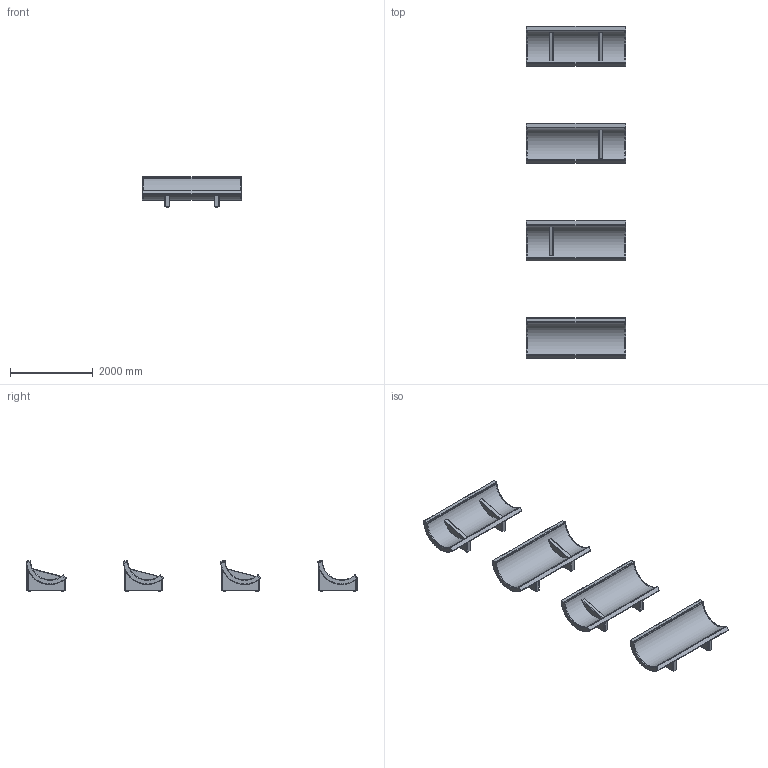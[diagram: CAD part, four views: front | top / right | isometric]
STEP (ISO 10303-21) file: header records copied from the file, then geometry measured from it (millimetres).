
FILE_DESCRIPTION(/* description */ (''),/* implementation_level */ '2;1');
FILE_NAME(/* name */ 'Poltrona PM_L240_Acerbis',/* time_stamp */ '2025-02-13T13:02:56+01:00',/* author */ (''),/* organization */ (''),/* preprocessor_version */ 'ST-DEVELOPER v19.2',/* originating_system */ 'Rhino 8.6',/* authorisation */ '');
FILE_SCHEMA (('AUTOMOTIVE_DESIGN'));
Length unit declared in the file: millimetre
Products named in the file (1): Document
Bounding box: 2400 x 8012.13 x 739.4 mm (x, y, z)
Volume: 1494678237.2 mm3; surface area: 41500764.7 mm2
Topology: 64 solids, 64 shells, 532 faces, 1100 edges, 700 vertices
Faces by surface type: plane 272, cylinder 212, bspline 48
Entity records: 17828 total; most frequent: CARTESIAN_POINT 7830, ORIENTED_EDGE 2200, DIRECTION 1312, EDGE_CURVE 1100, AXIS2_PLACEMENT_3D 898, VERTEX_POINT 700, B_SPLINE_CURVE_WITH_KNOTS 668, EDGE_LOOP 536
